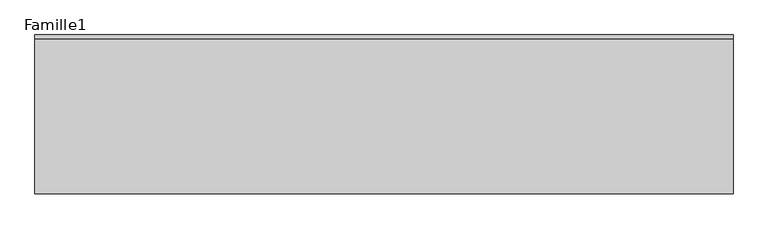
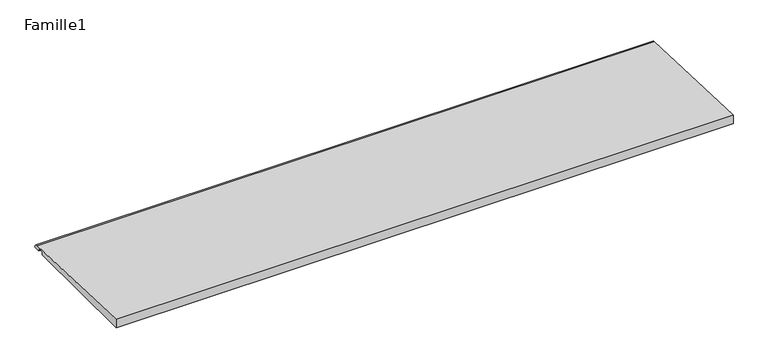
"""IFC4 building model written with IfcOpenShell, lengths in millimetres: proxy geometry, Famille1 : seuil."""

import ifcopenshell
import ifcopenshell.guid

model = None  # the IFC model being written
_history = None  # IfcOwnerHistory: only IFC2X3 demands one
_inside = {}  # id of a spatial element -> (the spatial element, [elements in it])
_under = {}  # id of a project, library or spatial element -> (it, [spatial elements below it])
_declared = {}  # id of a project -> (the project, [libraries it declares])
_typed = {}  # id of a type object -> (the type object, [elements of that type])
_made_of = {}  # id of a material, layer set ... -> (it, [elements and type objects made of it])


def new_model(schema):
    """Start an empty IFC model of exactly this schema.

    Asked for "IFC4X3", IfcOpenShell would pick the latest addendum, in which some entities
    have other attributes; the version numbers below select the first issue.
    IFC2X3 requires an IfcOwnerHistory on every rooted entity: one is made here for all.
    """
    global model, _history
    if schema == "IFC4X3":
        model = ifcopenshell.file(schema_version=(4, 3, 0, 0))
    else:
        model = ifcopenshell.file(schema=schema)
    _inside.clear()
    _under.clear()
    _declared.clear()
    _typed.clear()
    _made_of.clear()
    _history = None
    if model.schema == "IFC2X3":
        org = make("IfcOrganization", Name="unknown")
        user = make(
            "IfcPersonAndOrganization",
            ThePerson=make("IfcPerson", FamilyName="unknown"),
            TheOrganization=org,
        )
        app = make(
            "IfcApplication",
            ApplicationDeveloper=org,
            Version="unknown",
            ApplicationFullName="unknown",
            ApplicationIdentifier="unknown",
        )
        _history = make(
            "IfcOwnerHistory",
            OwningUser=user,
            OwningApplication=app,
            ChangeAction="ADDED",
            CreationDate=0,
        )
    return model


def make(cls, **values):
    """One entity of the class cls with the attributes given. An attribute that is None is left unset."""
    return model.create_entity(
        cls, **{name: value for name, value in values.items() if value is not None}
    )


def rooted(cls, **values):
    """An entity with a GlobalId (a new one), such as an element, a storey or a relation."""
    return make(cls, GlobalId=ifcopenshell.guid.new(), OwnerHistory=_history, **values)


def si_unit(unit_type, name, prefix=None):
    """IfcSIUnit, for example si_unit("LENGTHUNIT", "METRE", prefix="MILLI")."""
    return make("IfcSIUnit", UnitType=unit_type, Prefix=prefix, Name=name)


def assignment(units):
    """IfcUnitAssignment: the units of a project."""
    return None if units is None else make("IfcUnitAssignment", Units=units)


def point(xyz):
    """IfcCartesianPoint."""
    return None if xyz is None else make("IfcCartesianPoint", Coordinates=xyz)


def direction(xyz):
    """IfcDirection."""
    return None if xyz is None else make("IfcDirection", DirectionRatios=xyz)


def frame(location, z_axis=None, x_axis=None):
    """IfcAxis2Placement3D, a coordinate frame: its origin and axes. An axis left out is left unset."""
    return make(
        "IfcAxis2Placement3D",
        Location=point(location),
        Axis=direction(z_axis),
        RefDirection=direction(x_axis),
    )


def frame_2d(location, x_axis=None):
    """IfcAxis2Placement2D, a coordinate frame in the plane: its origin and x axis."""
    return make(
        "IfcAxis2Placement2D", Location=point(location), RefDirection=direction(x_axis)
    )


def origin():
    """The frame at (0, 0, 0) with its axes left unset."""
    return frame((0.0, 0.0, 0.0))


def place(relative_to, where):
    """IfcLocalPlacement: puts the frame where relative to a parent placement (None: the world)."""
    return make(
        "IfcLocalPlacement", PlacementRelTo=relative_to, RelativePlacement=where
    )


def context(
    kind, dimensions, precision=None, world=None, true_north=None, identifier=None
):
    """IfcGeometricRepresentationContext, for example the 3D "Model" context."""
    return make(
        "IfcGeometricRepresentationContext",
        ContextIdentifier=identifier,
        ContextType=kind,
        CoordinateSpaceDimension=dimensions,
        Precision=precision,
        WorldCoordinateSystem=world,
        TrueNorth=true_north,
    )


def project(units=None, contexts=None):
    """IfcProject with its units and contexts."""
    return rooted(
        "IfcProject",
        Name="project",
        RepresentationContexts=contexts,
        UnitsInContext=assignment(units),
    )


def spatial(cls, under=None, at=None, **own):
    """A site, building, storey or space (cls), placed at a placement, below another one or the project."""
    s = rooted(cls, ObjectPlacement=at, **own)
    if under is not None:
        _under.setdefault(under.id(), (under, []))[1].append(s)
    return s


def polyline(points):
    """IfcPolyline through the points."""
    return make("IfcPolyline", Points=[point(p) for p in points])


def circle_curve(where, radius):
    """IfcCircle in the frame where."""
    return make("IfcCircle", Position=where, Radius=radius)


def trimmed(basis, trim1, trim2, sense, master):
    """IfcTrimmedCurve: the piece of a basis curve between two trims."""
    return make(
        "IfcTrimmedCurve",
        BasisCurve=basis,
        Trim1=trim1,
        Trim2=trim2,
        SenseAgreement=sense,
        MasterRepresentation=master,
    )


def segment(curve, same_sense, transition):
    """IfcCompositeCurveSegment."""
    return make(
        "IfcCompositeCurveSegment",
        Transition=transition,
        SameSense=same_sense,
        ParentCurve=curve,
    )


def composite_curve(segments, self_intersect=None):
    """IfcCompositeCurve: segments joined end to end."""
    return make("IfcCompositeCurve", Segments=segments, SelfIntersect=self_intersect)


def outline(outer, holes=None, kind="AREA"):
    """IfcArbitraryClosedProfileDef: a profile drawn as a closed curve; with holes, ...WithVoids."""
    if holes is None:
        return make("IfcArbitraryClosedProfileDef", ProfileType=kind, OuterCurve=outer)
    return make(
        "IfcArbitraryProfileDefWithVoids",
        ProfileType=kind,
        OuterCurve=outer,
        InnerCurves=holes,
    )


def extrude(swept, where, along, depth):
    """IfcExtrudedAreaSolid: the profile swept, set in the frame where, extruded along a direction by depth."""
    return make(
        "IfcExtrudedAreaSolid",
        SweptArea=swept,
        Position=where,
        ExtrudedDirection=direction(along),
        Depth=depth,
    )


def shape(context_of_items, identifier, shape_type, items):
    """IfcShapeRepresentation: the items that make up one representation, for example the "Body"."""
    return make(
        "IfcShapeRepresentation",
        ContextOfItems=context_of_items,
        RepresentationIdentifier=identifier,
        RepresentationType=shape_type,
        Items=items,
    )


def source(mapping_origin, context_of_items, identifier, shape_type, items):
    """IfcRepresentationMap: a shape defined once, which mapped items show again and again."""
    return make(
        "IfcRepresentationMap",
        MappingOrigin=mapping_origin,
        MappedRepresentation=shape(context_of_items, identifier, shape_type, items),
    )


def transform(
    local_origin,
    x_axis=None,
    y_axis=None,
    z_axis=None,
    scale=None,
    scale2=None,
    scale3=None,
    uniform=True,
):
    """IfcCartesianTransformationOperator3D, or its non-uniform kind. x_axis, y_axis, z_axis: its Axis1, 2, 3."""
    if uniform:
        return make(
            "IfcCartesianTransformationOperator3D",
            Axis1=direction(x_axis),
            Axis2=direction(y_axis),
            LocalOrigin=point(local_origin),
            Scale=scale,
            Axis3=direction(z_axis),
        )
    return make(
        "IfcCartesianTransformationOperator3DnonUniform",
        Axis1=direction(x_axis),
        Axis2=direction(y_axis),
        LocalOrigin=point(local_origin),
        Scale=scale,
        Axis3=direction(z_axis),
        Scale2=scale2,
        Scale3=scale3,
    )


def mapped(mapping_source, mapping_target):
    """IfcMappedItem: shows the shape of a source again, moved by a transform."""
    return make(
        "IfcMappedItem", MappingSource=mapping_source, MappingTarget=mapping_target
    )


def made_of(thing, what):
    """Note that an element or type object is made of a material, layer set ...; save() writes the relation."""
    if what is not None:
        _made_of.setdefault(what.id(), (what, []))[1].append(thing)
    return thing


def element(
    cls,
    number,
    at=None,
    inside=None,
    cuts=None,
    type_object=None,
    material=None,
    context=None,
    identifier="Body",
    shape_type=None,
    held_by="IfcProductDefinitionShape",
    body=None,
    shapes=None,
    **own,
):
    """One element of the class cls, such as IfcWall. Its Tag is "e" and its number.

    at: its placement. inside: the storey or other place that contains it. cuts: it is an
    opening in that element (IfcRelVoidsElement). A single representation is given by context,
    identifier, shape_type and body (its items); several are given by shapes. held_by: the class
    of the entity that holds the representations. save() writes the other relations.
    """
    e = rooted(cls, Tag="e%d" % number, ObjectPlacement=at, **own)
    if body is not None:
        shapes = [shape(context, identifier, shape_type, body)]
    if shapes is not None:
        e.Representation = make(held_by, Representations=shapes)
    if inside is not None:
        _inside.setdefault(inside.id(), (inside, []))[1].append(e)
    if cuts is not None:
        rooted(
            "IfcRelVoidsElement", RelatingBuildingElement=cuts, RelatedOpeningElement=e
        )
    if type_object is not None:
        _typed.setdefault(type_object.id(), (type_object, []))[1].append(e)
    return made_of(e, material)


def aggregate(whole, parts):
    """IfcRelAggregates: a whole, such as a stair, and the parts it consists of."""
    return rooted("IfcRelAggregates", RelatingObject=whole, RelatedObjects=parts)


def save(model, path):
    """Write the relations noted so far, then the file.

    IfcRelAggregates (storeys below a building ...), IfcRelContainedInSpatialStructure (elements
    in a storey), IfcRelDefinesByType, IfcRelAssociatesMaterial and IfcRelDeclares: one each for
    every whole, place, type object, material and project.
    """
    for whole, parts in _under.values():
        aggregate(whole, parts)
    for where, things in _inside.values():
        rooted(
            "IfcRelContainedInSpatialStructure",
            RelatedElements=things,
            RelatingStructure=where,
        )
    for kind, things in _typed.values():
        rooted("IfcRelDefinesByType", RelatedObjects=things, RelatingType=kind)
    for what, things in _made_of.values():
        rooted("IfcRelAssociatesMaterial", RelatedObjects=things, RelatingMaterial=what)
    for by, libraries in _declared.values():
        rooted("IfcRelDeclares", RelatingContext=by, RelatedDefinitions=libraries)
    model.write(path)


def famille1_b6ac26f9(model_context):
    return source(origin(), model_context, "Body", "SweptSolid", [
        extrude(outline(composite_curve([segment(polyline([(0.9119711, 320.0), (310.7231275, 309.181156)]), True, "CONTINUOUS"), segment(trimmed(circle_curve(frame_2d((310.7231275, 300.2964416)), 8.8847144), [point((310.7231275, 309.181156))], [point((319.6078419, 300.2964416))], False, "CARTESIAN"), True, "CONTINUOUS"), segment(polyline([(319.6078419, 300.2964416), (303.8117852, 300.2964416)]), True, "CONTINUOUS"), segment(trimmed(circle_curve(frame_2d((296.7947851, 300.2964416)), 7.0170002), [point((303.8117852, 300.2964416))], [point((289.7840494, 300.0))], True, "CARTESIAN"), True, "CONTINUOUS"), segment(polyline([(289.7840494, 300.0), (0.9119711, 300.0), (0.9119711, 320.0)]), True, "CONTINUOUS")], self_intersect=False)), frame((0.0, 0.0, 0.0), z_axis=(1.0, 0.0, 0.0), x_axis=(0.0, 1.0, 0.0)), (0.0, 0.0, 1.0), 1400.0),
    ])


if __name__ == "__main__":
    model = new_model("IFC4")
    model_context = context("Model", 3, world=origin())
    ifc_project = project(units=[si_unit("LENGTHUNIT", "METRE", prefix="MILLI")], contexts=[model_context])
    site = spatial("IfcSite", under=ifc_project)
    building = spatial("IfcBuilding", under=site)
    placement = place(None, origin())
    famille1_shape = famille1_b6ac26f9(model_context)
    element("IfcBuildingElementProxy", 1, Name="Famille1 : seuil", ObjectType="Famille1 : seuil", at=placement, inside=building, context=model_context, shape_type="MappedRepresentation", body=[
        mapped(famille1_shape, transform((0.0, 0.0, 0.0), x_axis=(1.0, 0.0, 0.0), y_axis=(0.0, 1.0, 0.0), z_axis=(0.0, 0.0, 1.0))),
    ])
    save(model, "model.ifc")
